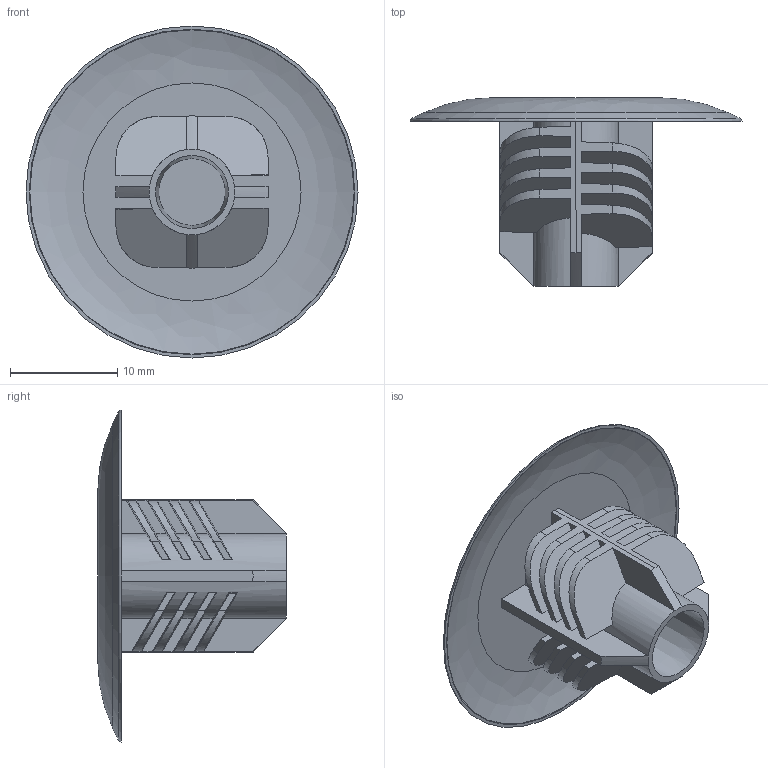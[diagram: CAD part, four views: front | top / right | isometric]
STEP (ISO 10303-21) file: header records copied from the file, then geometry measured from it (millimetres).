
FILE_DESCRIPTION(/* description */ (''),/* implementation_level */ '2;1');
FILE_NAME(/* name */ '3DCAD_MTKZ_15_30_SET.stp',/* time_stamp */ '2015-04-01T08:07:34+02:00',/* author */ (''),/* organization */ (''),/* preprocessor_version */ 'ST-DEVELOPER v15',/* originating_system */ 'SIEMENS PLM Software NX 8.5',/* authorisation */ '');
FILE_SCHEMA (('AUTOMOTIVE_DESIGN { 1 0 10303 214 3 1 1 1 }'));
Length unit declared in the file: millimetre
Products named in the file (1): 19-102211_00.0
Bounding box: 31 x 17.6 x 31 mm (x, y, z)
Volume: 1477.9 mm3; surface area: 4129.8 mm2
Topology: 2 solids, 2 shells, 134 faces, 370 edges, 244 vertices
Faces by surface type: plane 102, cylinder 22, cone 7, bspline 2, torus 1
Full cylindrical faces by diameter (mm): 15 x1, 15.4 x1
Entity records: 4237 total; most frequent: CARTESIAN_POINT 1033, ORIENTED_EDGE 722, DIRECTION 572, EDGE_CURVE 361, LINE 256, VECTOR 256, VERTEX_POINT 243, AXIS2_PLACEMENT_3D 158
